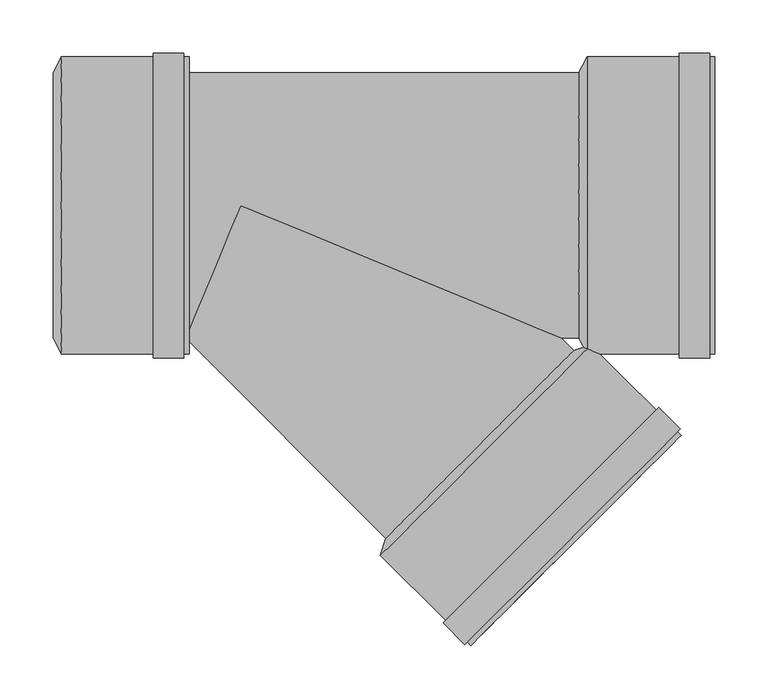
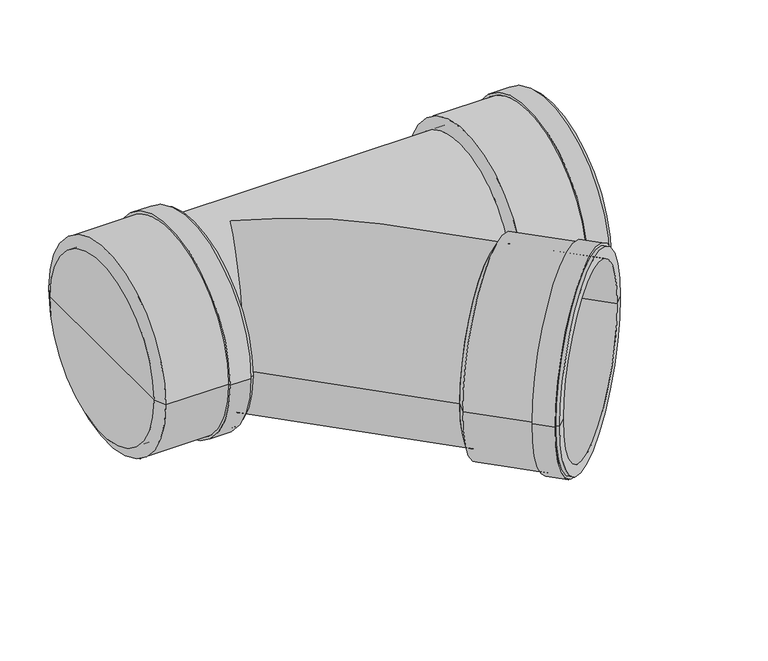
"""IFC4 building model written with IfcOpenShell, lengths in millimetres: pipe fitting geometry, pf_KGEA : pf_KGEA."""

from ifc_helpers import new_model, si_unit, frame, origin, place, context, project, spatial, polyline, circle_curve, ellipse_curve, source, transform, mapped, element, save
from ifc_brep_helpers import plane_surface, cylinder_surface, revolved_surface, advanced_brep


def pipe_fitting_af80dbad(model_context):
    return source(origin(), model_context, "Body", "AdvancedBrep", [
        advanced_brep(
        [(136.7544515, -313.5311468, 0.0), (313.5311468, -136.7544515, 0.0), (329.6531814, -131.5218613, 0.0), (131.5218613, -329.6531814, 0.0), (225.1427991, -225.1427991, 0.0), (216.5868071, -414.7181272, 0.0), (414.7181272, -216.5868071, 0.0), (404.0408148, -227.2641195, 0.0), (227.2641195, -404.0408148, 0.0), (213.1926945, -411.3240146, 0.0), (411.3240146, -213.1926945, 0.0), (210.7885315, -413.7281777, 0.0), (413.7281777, -210.7885315, 0.0), (190.4945669, -393.4342131, 0.0), (393.4342131, -190.4945669, 0.0), (192.8987299, -391.03005, 0.0), (391.03005, -192.8987299, 0.0), (142.1991737, -318.975869, 0.0), (318.975869, -142.1991737, 0.0), (230.5875213, -230.5875213, 0.0)],
        [
            (0, 1, circle_curve(frame((225.1427991, -225.1427991, 0.0), z_axis=(0.7071067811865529, -0.7071067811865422, 0.0), x_axis=(0.7071067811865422, 0.7071067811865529, 0.0)), 125.0)),
            (1, 2),
            (2, 3, circle_curve(frame((230.5875213, -230.5875213, 0.0), z_axis=(-0.7071067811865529, 0.7071067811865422, 0.0), x_axis=(0.7071067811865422, 0.7071067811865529, 0.0)), 140.1)),
            (3, 0),
            (1, 0, circle_curve(frame((225.1427991, -225.1427991, 0.0), z_axis=(0.7071067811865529, -0.7071067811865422, 0.0), x_axis=(0.7071067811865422, 0.7071067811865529, 0.0)), 125.0)),
            (3, 2, circle_curve(frame((230.5875213, -230.5875213, 0.0), z_axis=(-0.7071067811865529, 0.7071067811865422, 0.0), x_axis=(0.7071067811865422, 0.7071067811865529, 0.0)), 140.1)),
            (4, 1),
            (0, 4),
            (5, 6, circle_curve(frame((315.6524671, -315.6524671, 0.0), z_axis=(0.7071067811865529, -0.7071067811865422, 0.0), x_axis=(0.7071067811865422, 0.7071067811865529, 0.0)), 140.1)),
            (6, 7),
            (7, 8, circle_curve(frame((315.6524671, -315.6524671, 0.0), z_axis=(-0.7071067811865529, 0.7071067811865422, 0.0), x_axis=(0.7071067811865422, 0.7071067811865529, 0.0)), 125.0)),
            (8, 5),
            (6, 5, circle_curve(frame((315.6524671, -315.6524671, 0.0), z_axis=(0.7071067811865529, -0.7071067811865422, 0.0), x_axis=(0.7071067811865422, 0.7071067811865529, 0.0)), 140.1)),
            (8, 7, circle_curve(frame((315.6524671, -315.6524671, 0.0), z_axis=(-0.7071067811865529, 0.7071067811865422, 0.0), x_axis=(0.7071067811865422, 0.7071067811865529, 0.0)), 125.0)),
            (9, 10, circle_curve(frame((312.2583546, -312.2583546, 0.0), z_axis=(0.7071067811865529, -0.7071067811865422, 0.0), x_axis=(0.7071067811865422, 0.7071067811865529, 0.0)), 140.1)),
            (10, 6),
            (5, 9),
            (10, 9, circle_curve(frame((312.2583546, -312.2583546, 0.0), z_axis=(0.7071067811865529, -0.7071067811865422, 0.0), x_axis=(0.7071067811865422, 0.7071067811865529, 0.0)), 140.1)),
            (11, 12, circle_curve(frame((312.2583546, -312.2583546, 0.0), z_axis=(0.7071067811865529, -0.7071067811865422, 0.0), x_axis=(0.7071067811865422, 0.7071067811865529, 0.0)), 143.5)),
            (12, 10),
            (9, 11),
            (12, 11, circle_curve(frame((312.2583546, -312.2583546, 0.0), z_axis=(0.7071067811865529, -0.7071067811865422, 0.0), x_axis=(0.7071067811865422, 0.7071067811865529, 0.0)), 143.5)),
            (13, 14, circle_curve(frame((291.96439, -291.96439, 0.0), z_axis=(0.7071067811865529, -0.7071067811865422, 0.0), x_axis=(0.7071067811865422, 0.7071067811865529, 0.0)), 143.5)),
            (14, 12),
            (11, 13),
            (14, 13, circle_curve(frame((291.96439, -291.96439, 0.0), z_axis=(0.7071067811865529, -0.7071067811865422, 0.0), x_axis=(0.7071067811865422, 0.7071067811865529, 0.0)), 143.5)),
            (15, 16, circle_curve(frame((291.96439, -291.96439, 0.0), z_axis=(0.7071067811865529, -0.7071067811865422, 0.0), x_axis=(0.7071067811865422, 0.7071067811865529, 0.0)), 140.1)),
            (16, 14),
            (13, 15),
            (16, 15, circle_curve(frame((291.96439, -291.96439, 0.0), z_axis=(0.7071067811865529, -0.7071067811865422, 0.0), x_axis=(0.7071067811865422, 0.7071067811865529, 0.0)), 140.1)),
            (2, 16),
            (15, 3),
            (17, 18, circle_curve(frame((230.5875213, -230.5875213, 0.0), z_axis=(0.7071067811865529, -0.7071067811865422, 0.0), x_axis=(0.7071067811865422, 0.7071067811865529, 0.0)), 125.0)),
            (18, 19),
            (19, 17),
            (18, 17, circle_curve(frame((230.5875213, -230.5875213, 0.0), z_axis=(0.7071067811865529, -0.7071067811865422, 0.0), x_axis=(0.7071067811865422, 0.7071067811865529, 0.0)), 125.0)),
            (7, 18),
            (17, 8),
        ],
        [
            revolved_surface(polyline([(329.6531814, -131.5218613, 0.0), (313.5311468, -136.7544515, 0.0)]), (225.1427991, -225.1427991, 0.0), (-0.7071067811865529, 0.7071067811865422, 0.0)),
            plane_surface(frame((225.1427991, -225.1427991, 0.0), z_axis=(-0.7071067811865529, 0.7071067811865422, 0.0), x_axis=(0.7071067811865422, 0.7071067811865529, 0.0))),
            plane_surface(frame((315.6524671, -315.6524671, 0.0), z_axis=(0.7071067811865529, -0.7071067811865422, 0.0), x_axis=(0.7071067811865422, 0.7071067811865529, 0.0))),
            cylinder_surface(frame((225.1427991, -225.1427991, 0.0), z_axis=(-0.7071067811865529, 0.7071067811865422, 0.0), x_axis=(0.7071067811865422, 0.7071067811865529, 0.0)), 140.1),
            plane_surface(frame((312.2583546, -312.2583546, 0.0), z_axis=(0.7071067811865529, -0.7071067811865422, 0.0), x_axis=(0.7071067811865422, 0.7071067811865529, 0.0))),
            cylinder_surface(frame((225.1427991, -225.1427991, 0.0), z_axis=(-0.7071067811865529, 0.7071067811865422, 0.0), x_axis=(0.7071067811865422, 0.7071067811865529, 0.0)), 143.5),
            plane_surface(frame((291.96439, -291.96439, 0.0), z_axis=(-0.7071067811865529, 0.7071067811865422, 0.0), x_axis=(0.7071067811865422, 0.7071067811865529, 0.0))),
            plane_surface(frame((230.5875213, -230.5875213, 0.0), z_axis=(0.7071067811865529, -0.7071067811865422, 0.0), x_axis=(0.7071067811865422, 0.7071067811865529, 0.0))),
            revolved_surface(polyline([(318.97586894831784, -142.19917365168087, 0.0), (404.04081479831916, -227.2641195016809, 0.0)]), (225.1427991, -225.1427991, 0.0), (-0.7071067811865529, 0.7071067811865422, 0.0)),
        ],
        [
            (0, [[1, 2, 3, 4]]),
            (0, [[5, -4, 6, -2]]),
            (1, [[7, -1, 8]]),
            (1, [[-8, -5, -7]]),
            (2, [[9, 10, 11, 12]]),
            (2, [[13, -12, 14, -10]]),
            (3, [[15, 16, -9, 17]]),
            (3, [[18, -17, -13, -16]]),
            (4, [[19, 20, -15, 21]]),
            (4, [[22, -21, -18, -20]]),
            (5, [[23, 24, -19, 25]]),
            (5, [[26, -25, -22, -24]]),
            (6, [[27, 28, -23, 29]]),
            (6, [[30, -29, -26, -28]]),
            (3, [[-3, 31, -27, 32]]),
            (3, [[-6, -32, -30, -31]]),
            (7, [[33, 34, 35]]),
            (7, [[36, -35, -34]]),
            (8, [[-11, 37, -33, 38]]),
            (8, [[-14, -38, -36, -37]]),
        ],
    ),
        advanced_brep(
        [(318.4, -125.0, 0.0), (318.4, 125.0, 0.0), (326.1, 140.1, 0.0), (326.1, -140.1, 0.0), (318.4, 0.0, 0.0), (446.4, -140.1, 0.0), (446.4, 140.1, 0.0), (446.4, 125.0, 0.0), (446.4, -125.0, 0.0), (441.6, -140.1, 0.0), (441.6, 140.1, 0.0), (441.6, -143.5, 0.0), (441.6, 143.5, 0.0), (412.9, -143.5, 0.0), (412.9, 143.5, 0.0), (412.9, -140.1, 0.0), (412.9, 140.1, 0.0), (326.1, -125.0, 0.0), (326.1, 125.0, 0.0), (326.1, 0.0, 0.0)],
        [
            (0, 1, circle_curve(frame((318.4, 0.0, 0.0), z_axis=(1.0, 0.0, 0.0), x_axis=(0.0, 1.0, 0.0)), 125.0)),
            (1, 2),
            (2, 3, circle_curve(frame((326.1, 0.0, 0.0), z_axis=(-1.0, 0.0, 0.0), x_axis=(0.0, 1.0, 0.0)), 140.1)),
            (3, 0),
            (1, 0, circle_curve(frame((318.4, 0.0, 0.0), z_axis=(1.0, 0.0, 0.0), x_axis=(0.0, 1.0, 0.0)), 125.0)),
            (3, 2, circle_curve(frame((326.1, 0.0, 0.0), z_axis=(-1.0, 0.0, 0.0), x_axis=(0.0, 1.0, 0.0)), 140.1)),
            (4, 1),
            (0, 4),
            (5, 6, circle_curve(frame((446.4, 0.0, 0.0), z_axis=(1.0, 0.0, 0.0), x_axis=(0.0, 1.0, 0.0)), 140.1)),
            (6, 7),
            (7, 8, circle_curve(frame((446.4, 0.0, 0.0), z_axis=(-1.0, 0.0, 0.0), x_axis=(0.0, 1.0, 0.0)), 125.0)),
            (8, 5),
            (6, 5, circle_curve(frame((446.4, 0.0, 0.0), z_axis=(1.0, 0.0, 0.0), x_axis=(0.0, 1.0, 0.0)), 140.1)),
            (8, 7, circle_curve(frame((446.4, 0.0, 0.0), z_axis=(-1.0, 0.0, 0.0), x_axis=(0.0, 1.0, 0.0)), 125.0)),
            (9, 10, circle_curve(frame((441.6, 0.0, 0.0), z_axis=(1.0, 0.0, 0.0), x_axis=(0.0, 1.0, 0.0)), 140.1)),
            (10, 6),
            (5, 9),
            (10, 9, circle_curve(frame((441.6, 0.0, 0.0), z_axis=(1.0, 0.0, 0.0), x_axis=(0.0, 1.0, 0.0)), 140.1)),
            (11, 12, circle_curve(frame((441.6, 0.0, 0.0), z_axis=(1.0, 0.0, 0.0), x_axis=(0.0, 1.0, 0.0)), 143.5)),
            (12, 10),
            (9, 11),
            (12, 11, circle_curve(frame((441.6, 0.0, 0.0), z_axis=(1.0, 0.0, 0.0), x_axis=(0.0, 1.0, 0.0)), 143.5)),
            (13, 14, circle_curve(frame((412.9, 0.0, 0.0), z_axis=(1.0, 0.0, 0.0), x_axis=(0.0, 1.0, 0.0)), 143.5)),
            (14, 12),
            (11, 13),
            (14, 13, circle_curve(frame((412.9, 0.0, 0.0), z_axis=(1.0, 0.0, 0.0), x_axis=(0.0, 1.0, 0.0)), 143.5)),
            (15, 16, circle_curve(frame((412.9, 0.0, 0.0), z_axis=(1.0, 0.0, 0.0), x_axis=(0.0, 1.0, 0.0)), 140.1)),
            (16, 14),
            (13, 15),
            (16, 15, circle_curve(frame((412.9, 0.0, 0.0), z_axis=(1.0, 0.0, 0.0), x_axis=(0.0, 1.0, 0.0)), 140.1)),
            (2, 16),
            (15, 3),
            (17, 18, circle_curve(frame((326.1, 0.0, 0.0), z_axis=(1.0, 0.0, 0.0), x_axis=(0.0, 1.0, 0.0)), 125.0)),
            (18, 19),
            (19, 17),
            (18, 17, circle_curve(frame((326.1, 0.0, 0.0), z_axis=(1.0, 0.0, 0.0), x_axis=(0.0, 1.0, 0.0)), 125.0)),
            (7, 18),
            (17, 8),
        ],
        [
            revolved_surface(polyline([(326.1, 140.1, 0.0), (318.4, 125.0, 0.0)]), (318.4, 0.0, 0.0), (-1.0, 0.0, 0.0)),
            plane_surface(frame((318.4, 0.0, 0.0), z_axis=(-1.0, 0.0, 0.0), x_axis=(0.0, 1.0, 0.0))),
            plane_surface(frame((446.4, 0.0, 0.0), z_axis=(1.0, 0.0, 0.0), x_axis=(0.0, 1.0, 0.0))),
            cylinder_surface(frame((318.4, 0.0, 0.0), z_axis=(-1.0, 0.0, 0.0), x_axis=(0.0, 1.0, 0.0)), 140.1),
            plane_surface(frame((441.6, 0.0, 0.0), z_axis=(1.0, 0.0, 0.0), x_axis=(0.0, 1.0, 0.0))),
            cylinder_surface(frame((318.4, 0.0, 0.0), z_axis=(-1.0, 0.0, 0.0), x_axis=(0.0, 1.0, 0.0)), 143.5),
            plane_surface(frame((412.9, 0.0, 0.0), z_axis=(-1.0, 0.0, 0.0), x_axis=(0.0, 1.0, 0.0))),
            plane_surface(frame((326.1, 0.0, 0.0), z_axis=(1.0, 0.0, 0.0), x_axis=(0.0, 1.0, 0.0))),
            revolved_surface(polyline([(326.1, 125.0, 0.0), (446.4, 125.0, 0.0)]), (318.4, 0.0, 0.0), (-1.0, 0.0, 0.0)),
        ],
        [
            (0, [[1, 2, 3, 4]]),
            (0, [[5, -4, 6, -2]]),
            (1, [[7, -1, 8]]),
            (1, [[-8, -5, -7]]),
            (2, [[9, 10, 11, 12]]),
            (2, [[13, -12, 14, -10]]),
            (3, [[15, 16, -9, 17]]),
            (3, [[18, -17, -13, -16]]),
            (4, [[19, 20, -15, 21]]),
            (4, [[22, -21, -18, -20]]),
            (5, [[23, 24, -19, 25]]),
            (5, [[26, -25, -22, -24]]),
            (6, [[27, 28, -23, 29]]),
            (6, [[30, -29, -26, -28]]),
            (3, [[-3, 31, -27, 32]]),
            (3, [[-6, -32, -30, -31]]),
            (7, [[33, 34, 35]]),
            (7, [[36, -35, -34]]),
            (8, [[-11, 37, -33, 38]]),
            (8, [[-14, -38, -36, -37]]),
        ],
    ),
        advanced_brep(
        [(-176.6, -125.0, 0.0), (-176.6, 125.0, 0.0), (-168.9, 140.1, 0.0), (-168.9, -140.1, 0.0), (-176.6, 0.0, 0.0), (-48.6, -140.1, 0.0), (-48.6, 140.1, 0.0), (-48.6, 125.0, 0.0), (-48.6, -125.0, 0.0), (-53.4, -140.1, 0.0), (-53.4, 140.1, 0.0), (-53.4, -143.5, 0.0), (-53.4, 143.5, 0.0), (-82.1, -143.5, 0.0), (-82.1, 143.5, 0.0), (-82.1, -140.1, 0.0), (-82.1, 140.1, 0.0), (-168.9, -125.0, 0.0), (-168.9, 125.0, 0.0), (-168.9, 0.0, 0.0)],
        [
            (0, 1, circle_curve(frame((-176.6, 0.0, 0.0), z_axis=(1.0, 0.0, 0.0), x_axis=(0.0, 1.0, 0.0)), 125.0)),
            (1, 2),
            (2, 3, circle_curve(frame((-168.9, 0.0, 0.0), z_axis=(-1.0, 0.0, 0.0), x_axis=(0.0, 1.0, 0.0)), 140.1)),
            (3, 0),
            (1, 0, circle_curve(frame((-176.6, 0.0, 0.0), z_axis=(1.0, 0.0, 0.0), x_axis=(0.0, 1.0, 0.0)), 125.0)),
            (3, 2, circle_curve(frame((-168.9, 0.0, 0.0), z_axis=(-1.0, 0.0, 0.0), x_axis=(0.0, 1.0, 0.0)), 140.1)),
            (4, 1),
            (0, 4),
            (5, 6, circle_curve(frame((-48.6, 0.0, 0.0), z_axis=(1.0, 0.0, 0.0), x_axis=(0.0, 1.0, 0.0)), 140.1)),
            (6, 7),
            (7, 8, circle_curve(frame((-48.6, 0.0, 0.0), z_axis=(-1.0, 0.0, 0.0), x_axis=(0.0, 1.0, 0.0)), 125.0)),
            (8, 5),
            (6, 5, circle_curve(frame((-48.6, 0.0, 0.0), z_axis=(1.0, 0.0, 0.0), x_axis=(0.0, 1.0, 0.0)), 140.1)),
            (8, 7, circle_curve(frame((-48.6, 0.0, 0.0), z_axis=(-1.0, 0.0, 0.0), x_axis=(0.0, 1.0, 0.0)), 125.0)),
            (9, 10, circle_curve(frame((-53.4, 0.0, 0.0), z_axis=(1.0, 0.0, 0.0), x_axis=(0.0, 1.0, 0.0)), 140.1)),
            (10, 6),
            (5, 9),
            (10, 9, circle_curve(frame((-53.4, 0.0, 0.0), z_axis=(1.0, 0.0, 0.0), x_axis=(0.0, 1.0, 0.0)), 140.1)),
            (11, 12, circle_curve(frame((-53.4, 0.0, 0.0), z_axis=(1.0, 0.0, 0.0), x_axis=(0.0, 1.0, 0.0)), 143.5)),
            (12, 10),
            (9, 11),
            (12, 11, circle_curve(frame((-53.4, 0.0, 0.0), z_axis=(1.0, 0.0, 0.0), x_axis=(0.0, 1.0, 0.0)), 143.5)),
            (13, 14, circle_curve(frame((-82.1, 0.0, 0.0), z_axis=(1.0, 0.0, 0.0), x_axis=(0.0, 1.0, 0.0)), 143.5)),
            (14, 12),
            (11, 13),
            (14, 13, circle_curve(frame((-82.1, 0.0, 0.0), z_axis=(1.0, 0.0, 0.0), x_axis=(0.0, 1.0, 0.0)), 143.5)),
            (15, 16, circle_curve(frame((-82.1, 0.0, 0.0), z_axis=(1.0, 0.0, 0.0), x_axis=(0.0, 1.0, 0.0)), 140.1)),
            (16, 14),
            (13, 15),
            (16, 15, circle_curve(frame((-82.1, 0.0, 0.0), z_axis=(1.0, 0.0, 0.0), x_axis=(0.0, 1.0, 0.0)), 140.1)),
            (2, 16),
            (15, 3),
            (17, 18, circle_curve(frame((-168.9, 0.0, 0.0), z_axis=(1.0, 0.0, 0.0), x_axis=(0.0, 1.0, 0.0)), 125.0)),
            (18, 19),
            (19, 17),
            (18, 17, circle_curve(frame((-168.9, 0.0, 0.0), z_axis=(1.0, 0.0, 0.0), x_axis=(0.0, 1.0, 0.0)), 125.0)),
            (7, 18),
            (17, 8),
        ],
        [
            revolved_surface(polyline([(-168.9, 140.1, 0.0), (-176.6, 125.0, 0.0)]), (-176.6, 0.0, 0.0), (-1.0, 0.0, 0.0)),
            plane_surface(frame((-176.6, 0.0, 0.0), z_axis=(-1.0, 0.0, 0.0), x_axis=(0.0, 1.0, 0.0))),
            plane_surface(frame((-48.6, 0.0, 0.0), z_axis=(1.0, 0.0, 0.0), x_axis=(0.0, 1.0, 0.0))),
            cylinder_surface(frame((-176.6, 0.0, 0.0), z_axis=(-1.0, 0.0, 0.0), x_axis=(0.0, 1.0, 0.0)), 140.1),
            plane_surface(frame((-53.4, 0.0, 0.0), z_axis=(1.0, 0.0, 0.0), x_axis=(0.0, 1.0, 0.0))),
            cylinder_surface(frame((-176.6, 0.0, 0.0), z_axis=(-1.0, 0.0, 0.0), x_axis=(0.0, 1.0, 0.0)), 143.5),
            plane_surface(frame((-82.1, 0.0, 0.0), z_axis=(-1.0, 0.0, 0.0), x_axis=(0.0, 1.0, 0.0))),
            plane_surface(frame((-168.9, 0.0, 0.0), z_axis=(1.0, 0.0, 0.0), x_axis=(0.0, 1.0, 0.0))),
            revolved_surface(polyline([(-168.9, 125.0, 0.0), (-48.599999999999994, 125.0, 0.0)]), (-176.6, 0.0, 0.0), (-1.0, 0.0, 0.0)),
        ],
        [
            (0, [[1, 2, 3, 4]]),
            (0, [[5, -4, 6, -2]]),
            (1, [[7, -1, 8]]),
            (1, [[-8, -5, -7]]),
            (2, [[9, 10, 11, 12]]),
            (2, [[13, -12, 14, -10]]),
            (3, [[15, 16, -9, 17]]),
            (3, [[18, -17, -13, -16]]),
            (4, [[19, 20, -15, 21]]),
            (4, [[22, -21, -18, -20]]),
            (5, [[23, 24, -19, 25]]),
            (5, [[26, -25, -22, -24]]),
            (6, [[27, 28, -23, 29]]),
            (6, [[30, -29, -26, -28]]),
            (3, [[-3, 31, -27, 32]]),
            (3, [[-6, -32, -30, -31]]),
            (7, [[33, 34, 35]]),
            (7, [[36, -35, -34]]),
            (8, [[-11, 37, -33, 38]]),
            (8, [[-14, -38, -36, -37]]),
        ],
    ),
        advanced_brep(
        [(-168.9, -125.0, 0.0), (-168.9, 125.0, 0.0), (318.4, -125.0, 0.0), (318.4, 125.0, 0.0), (-51.7766953, -125.0, 0.0), (0.0, 0.0, 125.0), (301.7766953, -125.0, 0.0), (0.0, 0.0, -125.0), (136.7544515, -313.5311468, 0.0), (313.5311468, -136.7544515, 0.0)],
        [
            (0, 1, circle_curve(frame((-168.9, 0.0, 0.0), z_axis=(-1.0, 0.0, 0.0), x_axis=(0.0, 1.0, 0.0)), 125.0)),
            (1, 0, circle_curve(frame((-168.9, 0.0, 0.0), z_axis=(-1.0, 0.0, 0.0), x_axis=(0.0, 1.0, 0.0)), 125.0)),
            (2, 3, circle_curve(frame((318.4, 0.0, 0.0), z_axis=(1.0, 0.0, 0.0), x_axis=(0.0, 1.0, 0.0)), 125.0)),
            (3, 2, circle_curve(frame((318.4, 0.0, 0.0), z_axis=(1.0, 0.0, 0.0), x_axis=(0.0, 1.0, 0.0)), 125.0)),
            (0, 4),
            (4, 5, ellipse_curve(frame((0.0, 0.0, 0.0), z_axis=(-0.923879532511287, 0.38268343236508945, 0.0), x_axis=(-0.38268343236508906, -0.9238795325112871, 0.0)), 135.299025, 125.0)),
            (5, 6, ellipse_curve(frame((0.0, 0.0, 0.0), z_axis=(0.3826834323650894, 0.9238795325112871, 0.0), x_axis=(-0.923879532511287, 0.38268343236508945, 0.0)), 326.6407412, 125.0)),
            (6, 2),
            (3, 1),
            (6, 7, ellipse_curve(frame((0.0, 0.0, 0.0), z_axis=(0.3826834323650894, 0.9238795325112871, 0.0), x_axis=(-0.923879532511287, 0.38268343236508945, 0.0)), 326.6407412, 125.0)),
            (7, 4, ellipse_curve(frame((0.0, 0.0, 0.0), z_axis=(-0.923879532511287, 0.38268343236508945, 0.0), x_axis=(-0.38268343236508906, -0.9238795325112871, 0.0)), 135.299025, 125.0)),
            (8, 9, circle_curve(frame((225.1427991, -225.1427991, 0.0), z_axis=(0.7071067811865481, -0.707106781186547, 0.0), x_axis=(0.707106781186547, 0.7071067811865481, 0.0)), 125.0)),
            (9, 8, circle_curve(frame((225.1427991, -225.1427991, 0.0), z_axis=(0.7071067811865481, -0.707106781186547, 0.0), x_axis=(0.707106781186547, 0.7071067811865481, 0.0)), 125.0)),
            (9, 6),
            (4, 8),
        ],
        [
            plane_surface(frame((-168.9, 0.0, 0.0), z_axis=(-1.0, 0.0, 0.0), x_axis=(0.0, 0.0, 1.0))),
            plane_surface(frame((318.4, 0.0, 0.0), z_axis=(1.0, 0.0, 0.0), x_axis=(0.0, 0.0, 1.0))),
            cylinder_surface(frame((-168.9, 0.0, 0.0), z_axis=(-1.0, 0.0, 0.0), x_axis=(0.0, 1.0, 0.0)), 125.0),
            plane_surface(frame((225.1427991, -225.1427991, 0.0), z_axis=(0.7071067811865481, -0.707106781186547, 0.0), x_axis=(0.0, 0.0, 1.0))),
            cylinder_surface(frame((0.0, 0.0, 0.0), z_axis=(-0.7071067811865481, 0.707106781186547, 0.0), x_axis=(0.707106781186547, 0.7071067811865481, 0.0)), 125.0),
        ],
        [
            (0, [[1, 2]]),
            (1, [[3, 4]]),
            (2, [[-1, 5, 6, 7, 8, -4, 9]]),
            (2, [[-2, -9, -3, -8, 10, 11, -5]]),
            (3, [[12, 13]]),
            (4, [[-13, 14, -7, -6, 15]]),
            (4, [[-12, -15, -11, -10, -14]]),
        ],
    ),
    ])


if __name__ == "__main__":
    model = new_model("IFC4")
    model_context = context("Model", 3, world=origin())
    ifc_project = project(units=[si_unit("LENGTHUNIT", "METRE", prefix="MILLI")], contexts=[model_context])
    site = spatial("IfcSite", under=ifc_project)
    building = spatial("IfcBuilding", under=site)
    placement = place(None, origin())
    pipe_fitting_shape = pipe_fitting_af80dbad(model_context)
    element("IfcPipeFitting", 1, ObjectType="pf_KGEA : pf_KGEA", at=placement, inside=building, context=model_context, shape_type="MappedRepresentation", body=[
        mapped(pipe_fitting_shape, transform((0.0, 0.0, 0.0), x_axis=(1.0, 0.0, 0.0), y_axis=(0.0, 1.0, 0.0), z_axis=(0.0, 0.0, 1.0))),
    ])
    save(model, "model.ifc")
